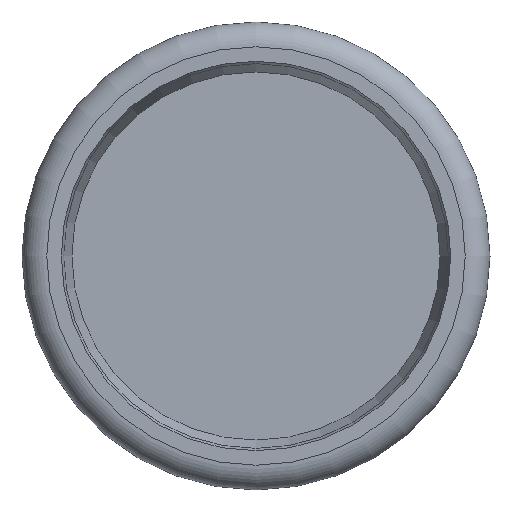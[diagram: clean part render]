
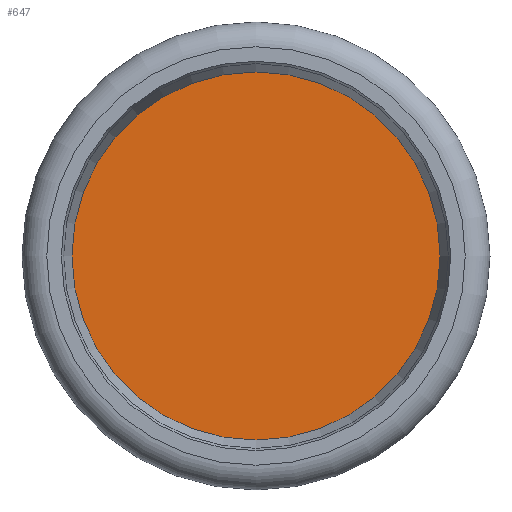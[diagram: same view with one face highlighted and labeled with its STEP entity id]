
A CAD part, left-side view. The second image highlights one B-rep face of the part: STEP entity #647.
In plain terms, the highlighted planar face has unit normal (-1, 0, 0) as drawn and (0, 0, 1) by its records, which use the part's own axes.
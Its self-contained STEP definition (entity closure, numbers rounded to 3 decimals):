
#616=CARTESIAN_POINT('',(54.0,0.,2.0));
#617=VERTEX_POINT('',#616);
#618=CARTESIAN_POINT('',(0.0,0.0,2.0));
#619=DIRECTION('',(0.0,0.0,-1.0));
#620=DIRECTION('',(-1.0,0.0,0.0));
#621=AXIS2_PLACEMENT_3D('',#618,#619,#620);
#622=CIRCLE('',#621,54.0);
#623=EDGE_CURVE('',#617,#617,#622,.T.);
#639=CARTESIAN_POINT('',(0.0,0.0,2.0));
#640=DIRECTION('',(0.0,0.0,-1.0));
#641=DIRECTION('',(-1.0,0.0,0.0));
#642=AXIS2_PLACEMENT_3D('',#639,#640,#641);
#643=PLANE('',#642);
#644=ORIENTED_EDGE('',*,*,#623,.F.);
#645=EDGE_LOOP('',(#644));
#646=FACE_OUTER_BOUND('',#645,.T.);
#647=ADVANCED_FACE('',(#646),#643,.F.);
